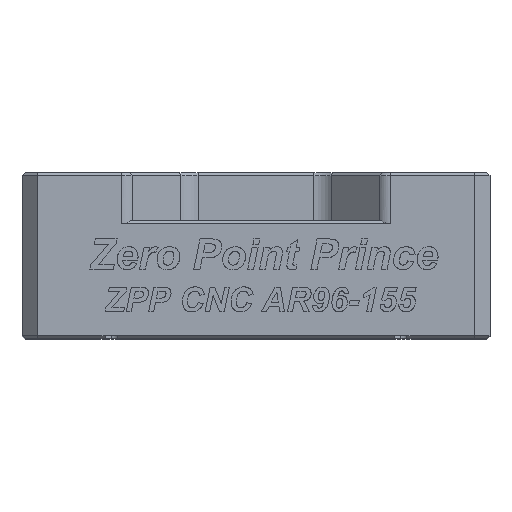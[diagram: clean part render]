
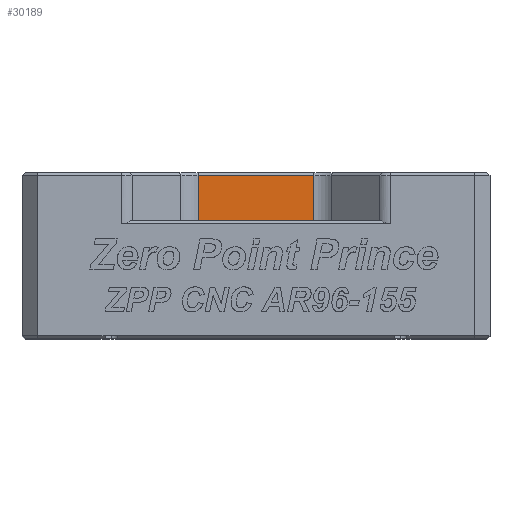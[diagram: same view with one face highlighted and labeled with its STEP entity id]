
A CAD part, top view. The second image highlights one B-rep face of the part: STEP entity #30189.
In plain terms, the highlighted planar face has unit normal (0, 0, 1).
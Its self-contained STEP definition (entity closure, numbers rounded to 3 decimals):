
#5281=DIRECTION('',(1.,0.,0.));
#5282=VECTOR('',#5281,38.373);
#5283=CARTESIAN_POINT('',(-19.186,14.,57.5));
#5284=LINE('',#5283,#5282);
#5311=DIRECTION('',(1.,0.,0.));
#5312=VECTOR('',#5311,38.373);
#5313=CARTESIAN_POINT('',(-19.186,29.,57.5));
#5314=LINE('',#5313,#5312);
#5315=DIRECTION('',(0.,1.,0.));
#5316=VECTOR('',#5315,15.);
#5317=CARTESIAN_POINT('',(-19.186,14.,57.5));
#5318=LINE('',#5317,#5316);
#5319=DIRECTION('',(0.,1.,0.));
#5320=VECTOR('',#5319,15.);
#5321=CARTESIAN_POINT('',(19.186,14.,57.5));
#5322=LINE('',#5321,#5320);
#22352=CARTESIAN_POINT('',(-19.186,29.,
57.5));
#22353=VERTEX_POINT('',#22352);
#22354=CARTESIAN_POINT('',(19.186,29.,57.5));
#22355=VERTEX_POINT('',#22354);
#23811=CARTESIAN_POINT('',(-19.186,14.,57.5));
#23812=VERTEX_POINT('',#23811);
#23813=CARTESIAN_POINT('',(19.186,14.,57.5));
#23814=VERTEX_POINT('',#23813);
#30177=CARTESIAN_POINT('',(-22.5,30.,57.5));
#30178=DIRECTION('',(0.,0.,1.));
#30179=DIRECTION('',(1.,0.,0.));
#30180=AXIS2_PLACEMENT_3D('',#30177,#30178,#30179);
#30181=PLANE('',#30180);
#30182=ORIENTED_EDGE('',*,*,#27549,.T.);
#30184=ORIENTED_EDGE('',*,*,#30183,.F.);
#30185=ORIENTED_EDGE('',*,*,#30140,.F.);
#30186=ORIENTED_EDGE('',*,*,#30170,.T.);
#30187=EDGE_LOOP('',(#30182,#30184,#30185,#30186));
#30188=FACE_OUTER_BOUND('',#30187,.F.);
#30189=ADVANCED_FACE('',(#30188),#30181,.T.);
#27549=EDGE_CURVE('',#22353,#22355,#5314,.T.);
#30140=EDGE_CURVE('',#23812,#23814,#5284,.T.);
#30170=EDGE_CURVE('',#23812,#22353,#5318,.T.);
#30183=EDGE_CURVE('',#23814,#22355,#5322,.T.);
